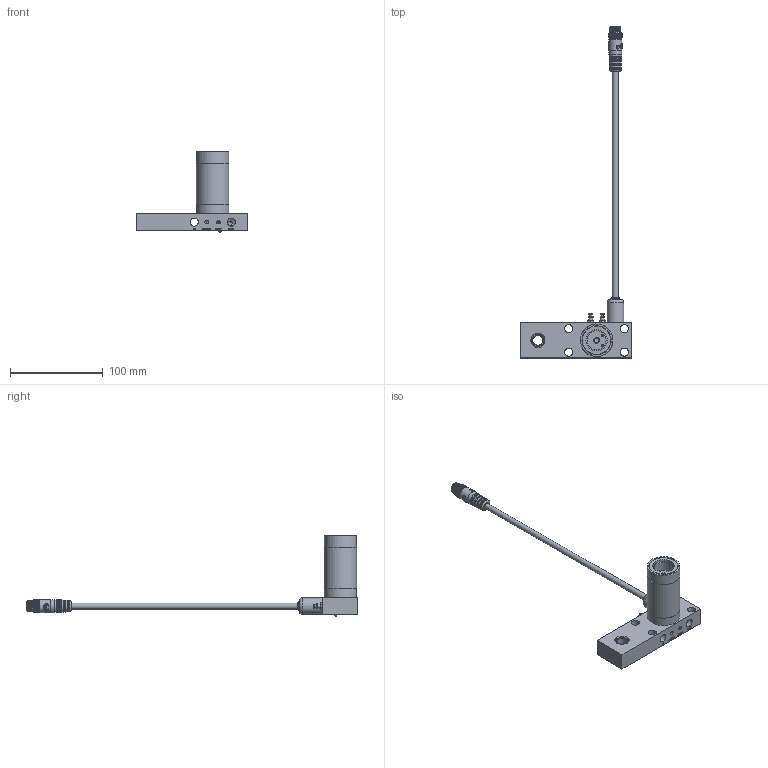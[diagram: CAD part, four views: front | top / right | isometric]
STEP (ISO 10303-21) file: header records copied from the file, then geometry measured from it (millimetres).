
FILE_DESCRIPTION(/* description */ ('ASSY,BODY,VF,IA,SXJR3,NHP_0002708476'),/* implementation_level */ '2;1');
FILE_NAME(/* name */ 'X:\ASSY,BODY,VF,IA,SXJR3,NHP_0002708476.stp',/* time_stamp */ '2021-07-07T13:09:21-04:00',/* author */ ('Simon.Britton'),/* organization */ (''),/* preprocessor_version */ 'ST-DEVELOPER v17',/* originating_system */ 'Autodesk Inventor 2019',/* authorisation */ '');
FILE_SCHEMA (('AUTOMOTIVE_DESIGN { 1 0 10303 214 3 1 1 }'));
Length unit declared in the file: millimetre
Products named in the file (1): ASSY,BODY,VF,IA,SXJR3,NHP_0002708476
Bounding box: 120.65 x 358.79 x 87.37 mm (x, y, z)
Volume: 131823.8 mm3; surface area: 67622.3 mm2
Topology: 1 solids, 72 shells, 4056 faces, 9584 edges, 5763 vertices
Faces by surface type: bspline 2515, plane 756, cylinder 684, cone 65, torus 23, sphere 13
Full cylindrical faces by diameter (mm): 1 x5, 1.05 x5, 1.25 x10, 1.35 x5, 1.6 x10, 1.8 x5, 1.85 x5, 2 x1, 2.381 x4, 2.464 x1, 2.7 x1, 2.997 x6, 3 x1, 3.2 x1, 3.81 x2, 3.962 x6, 4.216 x4, 4.366 x1, 4.496 x6, 4.763 x3, 4.8 x3, 5.7 x1, 6.35 x3, 6.4 x1, 7 x1, 8.731 x4, 8.738 x4, 9.4 x1, 9.7 x2, 10.592 x1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
Entity records: 258641 total; most frequent: CARTESIAN_POINT 171728, ORIENTED_EDGE 19134, DIRECTION 13906, EDGE_CURVE 9567, AXIS2_PLACEMENT_3D 5875, VERTEX_POINT 5763, CIRCLE 4268, EDGE_LOOP 4251
